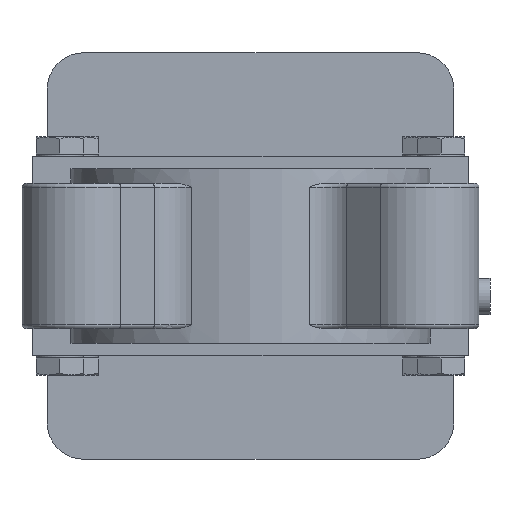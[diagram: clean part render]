
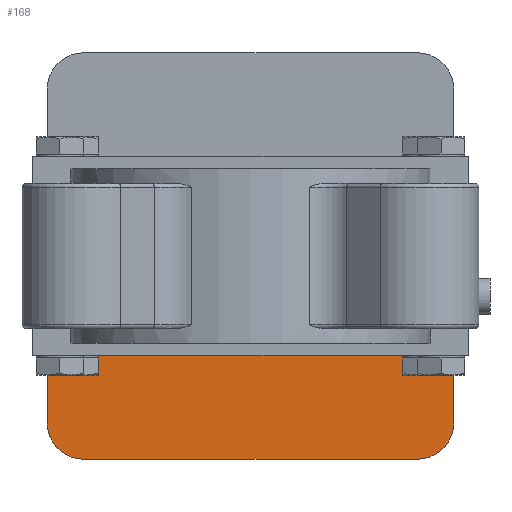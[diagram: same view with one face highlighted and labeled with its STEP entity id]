
A CAD part, front view. The second image highlights one B-rep face of the part: STEP entity #168.
In plain terms, the highlighted planar face has unit normal (0, -1, 0).
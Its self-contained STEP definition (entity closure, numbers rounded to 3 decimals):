
#168=ADVANCED_FACE('',(#6159),#6161,.F.);
#6159=FACE_BOUND('',#6160,.T.);
#6160=EDGE_LOOP('',(#10933,#10934,#10935,#10936,#10937,#10938));
#6161=PLANE('',#6162);
#6162=AXIS2_PLACEMENT_3D('',#6163,#6164,#6165);
#6163=CARTESIAN_POINT('',(0.,228.,0.));
#6164=DIRECTION('',(0.,1.,0.));
#6165=DIRECTION('',(0.,0.,1.));
#10933=ORIENTED_EDGE('',*,*,#14635,.T.);
#10934=ORIENTED_EDGE('',*,*,#14689,.F.);
#10935=ORIENTED_EDGE('',*,*,#14690,.F.);
#10936=ORIENTED_EDGE('',*,*,#14691,.F.);
#10937=ORIENTED_EDGE('',*,*,#14692,.F.);
#10938=ORIENTED_EDGE('',*,*,#14693,.F.);
#14635=EDGE_CURVE('',#16302,#16303,#16304,.T.);
#14689=EDGE_CURVE('',#16410,#16303,#16411,.T.);
#14690=EDGE_CURVE('',#16412,#16410,#16413,.F.);
#14691=EDGE_CURVE('',#16414,#16412,#16415,.T.);
#14692=EDGE_CURVE('',#16416,#16414,#16417,.F.);
#14693=EDGE_CURVE('',#16302,#16416,#16418,.T.);
#16302=VERTEX_POINT('',#19053);
#16303=VERTEX_POINT('',#19054);
#16304=LINE('',#19055,#19056);
#16410=VERTEX_POINT('',#19297);
#16411=LINE('',#19298,#19299);
#16412=VERTEX_POINT('',#19301);
#16413=CIRCLE('',#19302,10.);
#16414=VERTEX_POINT('',#19306);
#16415=LINE('',#19307,#19308);
#16416=VERTEX_POINT('',#19310);
#16417=CIRCLE('',#19311,10.);
#16418=LINE('',#19315,#19316);
#19053=CARTESIAN_POINT('',(56.,228.,-27.5));
#19054=CARTESIAN_POINT('',(-56.,228.,-27.5));
#19055=CARTESIAN_POINT('',(56.,228.,-27.5));
#19056=VECTOR('',#19057,1.);
#19057=DIRECTION('',(-1.,0.,0.));
#19297=CARTESIAN_POINT('',(-56.,228.,-46.));
#19298=CARTESIAN_POINT('',(-56.,228.,-46.));
#19299=VECTOR('',#19300,1.);
#19300=DIRECTION('',(0.,0.,1.));
#19301=CARTESIAN_POINT('',(-46.,228.,-56.));
#19302=AXIS2_PLACEMENT_3D('',#19303,#19304,#19305);
#19303=CARTESIAN_POINT('',(-46.,228.,-46.));
#19304=DIRECTION('',(0.,-1.,0.));
#19305=DIRECTION('',(-1.,0.,0.));
#19306=CARTESIAN_POINT('',(46.,228.,-56.));
#19307=CARTESIAN_POINT('',(46.,228.,-56.));
#19308=VECTOR('',#19309,1.);
#19309=DIRECTION('',(-1.,0.,0.));
#19310=CARTESIAN_POINT('',(56.,228.,-46.));
#19311=AXIS2_PLACEMENT_3D('',#19312,#19313,#19314);
#19312=CARTESIAN_POINT('',(46.,228.,-46.));
#19313=DIRECTION('',(0.,-1.,0.));
#19314=DIRECTION('',(0.,0.,-1.));
#19315=CARTESIAN_POINT('',(56.,228.,-27.5));
#19316=VECTOR('',#19317,1.);
#19317=DIRECTION('',(0.,0.,-1.));
